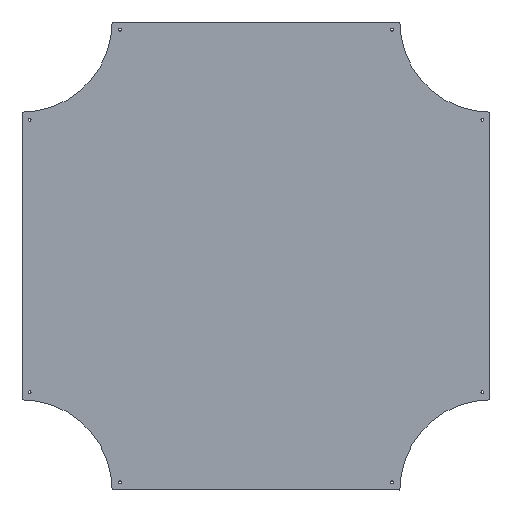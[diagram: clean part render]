
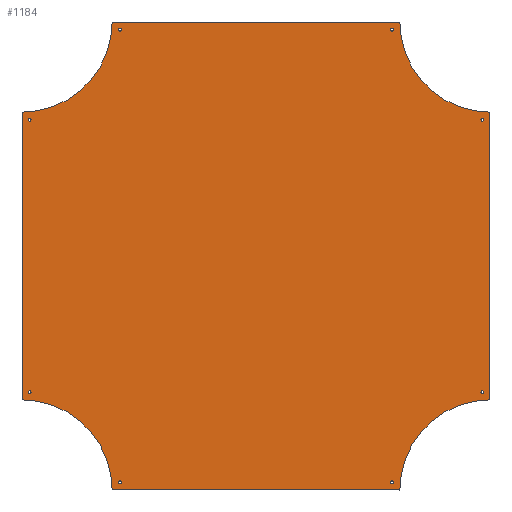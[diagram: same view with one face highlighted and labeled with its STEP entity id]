
A CAD part, top view. The second image highlights one B-rep face of the part: STEP entity #1184.
In plain terms, the highlighted planar face has unit normal (0, 0, 1).
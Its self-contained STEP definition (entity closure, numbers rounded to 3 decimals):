
#86=FACE_BOUND('',#177,.T.);
#87=FACE_BOUND('',#178,.T.);
#88=FACE_BOUND('',#179,.T.);
#89=FACE_BOUND('',#180,.T.);
#90=FACE_BOUND('',#181,.T.);
#91=FACE_BOUND('',#182,.T.);
#92=FACE_BOUND('',#183,.T.);
#93=FACE_BOUND('',#184,.T.);
#102=FACE_OUTER_BOUND('',#176,.T.);
#176=EDGE_LOOP('',(#810,#811,#812,#813,#814,#815,#816,#817));
#177=EDGE_LOOP('',(#818,#819));
#178=EDGE_LOOP('',(#820,#821));
#179=EDGE_LOOP('',(#822,#823));
#180=EDGE_LOOP('',(#824,#825));
#181=EDGE_LOOP('',(#826,#827));
#182=EDGE_LOOP('',(#828,#829));
#183=EDGE_LOOP('',(#830,#831));
#184=EDGE_LOOP('',(#832,#833));
#266=CIRCLE('',#1270,298.5);
#267=CIRCLE('',#1271,298.5);
#268=CIRCLE('',#1272,298.5);
#269=CIRCLE('',#1273,298.5);
#270=CIRCLE('',#1274,5.);
#271=CIRCLE('',#1275,5.);
#272=CIRCLE('',#1276,5.);
#273=CIRCLE('',#1277,5.);
#274=CIRCLE('',#1278,5.);
#275=CIRCLE('',#1279,5.);
#276=CIRCLE('',#1280,5.);
#277=CIRCLE('',#1281,5.);
#278=CIRCLE('',#1282,5.);
#279=CIRCLE('',#1283,5.);
#280=CIRCLE('',#1284,5.);
#281=CIRCLE('',#1285,5.);
#282=CIRCLE('',#1286,5.);
#283=CIRCLE('',#1287,5.);
#284=CIRCLE('',#1288,5.);
#285=CIRCLE('',#1289,5.);
#338=LINE('',#1839,#434);
#339=LINE('',#1843,#435);
#340=LINE('',#1847,#436);
#341=LINE('',#1851,#437);
#434=VECTOR('',#1430,304.8);
#435=VECTOR('',#1433,304.8);
#436=VECTOR('',#1436,304.8);
#437=VECTOR('',#1439,304.8);
#530=VERTEX_POINT('',#1837);
#531=VERTEX_POINT('',#1838);
#532=VERTEX_POINT('',#1840);
#533=VERTEX_POINT('',#1842);
#534=VERTEX_POINT('',#1844);
#535=VERTEX_POINT('',#1846);
#536=VERTEX_POINT('',#1848);
#537=VERTEX_POINT('',#1850);
#538=VERTEX_POINT('',#1853);
#539=VERTEX_POINT('',#1854);
#540=VERTEX_POINT('',#1857);
#541=VERTEX_POINT('',#1858);
#542=VERTEX_POINT('',#1861);
#543=VERTEX_POINT('',#1862);
#544=VERTEX_POINT('',#1865);
#545=VERTEX_POINT('',#1866);
#546=VERTEX_POINT('',#1869);
#547=VERTEX_POINT('',#1870);
#548=VERTEX_POINT('',#1873);
#549=VERTEX_POINT('',#1874);
#550=VERTEX_POINT('',#1877);
#551=VERTEX_POINT('',#1878);
#552=VERTEX_POINT('',#1881);
#553=VERTEX_POINT('',#1882);
#642=EDGE_CURVE('',#530,#531,#338,.T.);
#643=EDGE_CURVE('',#531,#532,#266,.T.);
#644=EDGE_CURVE('',#532,#533,#339,.T.);
#645=EDGE_CURVE('',#533,#534,#267,.T.);
#646=EDGE_CURVE('',#534,#535,#340,.T.);
#647=EDGE_CURVE('',#535,#536,#268,.T.);
#648=EDGE_CURVE('',#536,#537,#341,.T.);
#649=EDGE_CURVE('',#537,#530,#269,.T.);
#650=EDGE_CURVE('',#538,#539,#270,.T.);
#651=EDGE_CURVE('',#539,#538,#271,.T.);
#652=EDGE_CURVE('',#540,#541,#272,.T.);
#653=EDGE_CURVE('',#541,#540,#273,.T.);
#654=EDGE_CURVE('',#542,#543,#274,.T.);
#655=EDGE_CURVE('',#543,#542,#275,.T.);
#656=EDGE_CURVE('',#544,#545,#276,.T.);
#657=EDGE_CURVE('',#545,#544,#277,.T.);
#658=EDGE_CURVE('',#546,#547,#278,.T.);
#659=EDGE_CURVE('',#547,#546,#279,.T.);
#660=EDGE_CURVE('',#548,#549,#280,.T.);
#661=EDGE_CURVE('',#549,#548,#281,.T.);
#662=EDGE_CURVE('',#550,#551,#282,.T.);
#663=EDGE_CURVE('',#551,#550,#283,.T.);
#664=EDGE_CURVE('',#552,#553,#284,.T.);
#665=EDGE_CURVE('',#553,#552,#285,.T.);
#810=ORIENTED_EDGE('',*,*,#642,.T.);
#811=ORIENTED_EDGE('',*,*,#643,.T.);
#812=ORIENTED_EDGE('',*,*,#644,.T.);
#813=ORIENTED_EDGE('',*,*,#645,.T.);
#814=ORIENTED_EDGE('',*,*,#646,.T.);
#815=ORIENTED_EDGE('',*,*,#647,.T.);
#816=ORIENTED_EDGE('',*,*,#648,.T.);
#817=ORIENTED_EDGE('',*,*,#649,.T.);
#818=ORIENTED_EDGE('',*,*,#650,.T.);
#819=ORIENTED_EDGE('',*,*,#651,.T.);
#820=ORIENTED_EDGE('',*,*,#652,.T.);
#821=ORIENTED_EDGE('',*,*,#653,.T.);
#822=ORIENTED_EDGE('',*,*,#654,.T.);
#823=ORIENTED_EDGE('',*,*,#655,.T.);
#824=ORIENTED_EDGE('',*,*,#656,.T.);
#825=ORIENTED_EDGE('',*,*,#657,.T.);
#826=ORIENTED_EDGE('',*,*,#658,.T.);
#827=ORIENTED_EDGE('',*,*,#659,.T.);
#828=ORIENTED_EDGE('',*,*,#660,.T.);
#829=ORIENTED_EDGE('',*,*,#661,.T.);
#830=ORIENTED_EDGE('',*,*,#662,.T.);
#831=ORIENTED_EDGE('',*,*,#663,.T.);
#832=ORIENTED_EDGE('',*,*,#664,.T.);
#833=ORIENTED_EDGE('',*,*,#665,.T.);
#1146=PLANE('',#1269);
#1184=ADVANCED_FACE('',(#102,#86,#87,#88,#89,#90,#91,#92,#93),#1146,.T.);
#1269=AXIS2_PLACEMENT_3D('',#1836,#1428,#1429);
#1270=AXIS2_PLACEMENT_3D('',#1841,#1431,#1432);
#1271=AXIS2_PLACEMENT_3D('',#1845,#1434,#1435);
#1272=AXIS2_PLACEMENT_3D('',#1849,#1437,#1438);
#1273=AXIS2_PLACEMENT_3D('',#1852,#1440,#1441);
#1274=AXIS2_PLACEMENT_3D('',#1855,#1442,#1443);
#1275=AXIS2_PLACEMENT_3D('',#1856,#1444,#1445);
#1276=AXIS2_PLACEMENT_3D('',#1859,#1446,#1447);
#1277=AXIS2_PLACEMENT_3D('',#1860,#1448,#1449);
#1278=AXIS2_PLACEMENT_3D('',#1863,#1450,#1451);
#1279=AXIS2_PLACEMENT_3D('',#1864,#1452,#1453);
#1280=AXIS2_PLACEMENT_3D('',#1867,#1454,#1455);
#1281=AXIS2_PLACEMENT_3D('',#1868,#1456,#1457);
#1282=AXIS2_PLACEMENT_3D('',#1871,#1458,#1459);
#1283=AXIS2_PLACEMENT_3D('',#1872,#1460,#1461);
#1284=AXIS2_PLACEMENT_3D('',#1875,#1462,#1463);
#1285=AXIS2_PLACEMENT_3D('',#1876,#1464,#1465);
#1286=AXIS2_PLACEMENT_3D('',#1879,#1466,#1467);
#1287=AXIS2_PLACEMENT_3D('',#1880,#1468,#1469);
#1288=AXIS2_PLACEMENT_3D('',#1883,#1470,#1471);
#1289=AXIS2_PLACEMENT_3D('',#1884,#1472,#1473);
#1428=DIRECTION('center_axis',(0.,0.,1.));
#1429=DIRECTION('ref_axis',(0.,-1.,0.));
#1430=DIRECTION('',(0.,1.,0.));
#1431=DIRECTION('center_axis',(0.,0.,-1.));
#1432=DIRECTION('ref_axis',(1.,0.,0.));
#1433=DIRECTION('',(-1.,0.,0.));
#1434=DIRECTION('center_axis',(0.,0.,-1.));
#1435=DIRECTION('ref_axis',(1.,0.,0.));
#1436=DIRECTION('',(0.,-1.,0.));
#1437=DIRECTION('center_axis',(0.,0.,-1.));
#1438=DIRECTION('ref_axis',(1.,0.,0.));
#1439=DIRECTION('',(1.,0.,0.));
#1440=DIRECTION('center_axis',(0.,0.,-1.));
#1441=DIRECTION('ref_axis',(1.,0.,0.));
#1442=DIRECTION('center_axis',(0.,0.,-1.));
#1443=DIRECTION('ref_axis',(1.,0.,0.));
#1444=DIRECTION('center_axis',(0.,0.,-1.));
#1445=DIRECTION('ref_axis',(1.,0.,0.));
#1446=DIRECTION('center_axis',(0.,0.,-1.));
#1447=DIRECTION('ref_axis',(1.,0.,0.));
#1448=DIRECTION('center_axis',(0.,0.,-1.));
#1449=DIRECTION('ref_axis',(1.,0.,0.));
#1450=DIRECTION('center_axis',(0.,0.,-1.));
#1451=DIRECTION('ref_axis',(1.,0.,0.));
#1452=DIRECTION('center_axis',(0.,0.,-1.));
#1453=DIRECTION('ref_axis',(1.,0.,0.));
#1454=DIRECTION('center_axis',(0.,0.,-1.));
#1455=DIRECTION('ref_axis',(1.,0.,0.));
#1456=DIRECTION('center_axis',(0.,0.,-1.));
#1457=DIRECTION('ref_axis',(1.,0.,0.));
#1458=DIRECTION('center_axis',(0.,0.,-1.));
#1459=DIRECTION('ref_axis',(1.,0.,0.));
#1460=DIRECTION('center_axis',(0.,0.,-1.));
#1461=DIRECTION('ref_axis',(1.,0.,0.));
#1462=DIRECTION('center_axis',(0.,0.,-1.));
#1463=DIRECTION('ref_axis',(1.,0.,0.));
#1464=DIRECTION('center_axis',(0.,0.,-1.));
#1465=DIRECTION('ref_axis',(1.,0.,0.));
#1466=DIRECTION('center_axis',(0.,0.,-1.));
#1467=DIRECTION('ref_axis',(1.,0.,0.));
#1468=DIRECTION('center_axis',(0.,0.,-1.));
#1469=DIRECTION('ref_axis',(1.,0.,0.));
#1470=DIRECTION('center_axis',(0.,0.,-1.));
#1471=DIRECTION('ref_axis',(1.,0.,0.));
#1472=DIRECTION('center_axis',(0.,0.,-1.));
#1473=DIRECTION('ref_axis',(1.,0.,0.));
#1836=CARTESIAN_POINT('Origin',(-476.5,-775.,1.5));
#1837=CARTESIAN_POINT('',(775.,-476.5,1.5));
#1838=CARTESIAN_POINT('',(775.,476.5,1.5));
#1839=CARTESIAN_POINT('',(775.,-476.5,1.5));
#1840=CARTESIAN_POINT('',(476.5,775.,1.5));
#1841=CARTESIAN_POINT('Origin',(775.,775.,1.5));
#1842=CARTESIAN_POINT('',(-476.5,775.,1.5));
#1843=CARTESIAN_POINT('',(476.5,775.,1.5));
#1844=CARTESIAN_POINT('',(-775.,476.5,1.5));
#1845=CARTESIAN_POINT('Origin',(-775.,775.,1.5));
#1846=CARTESIAN_POINT('',(-775.,-476.5,1.5));
#1847=CARTESIAN_POINT('',(-775.,476.5,1.5));
#1848=CARTESIAN_POINT('',(-476.5,-775.,1.5));
#1849=CARTESIAN_POINT('Origin',(-775.,-775.,1.5));
#1850=CARTESIAN_POINT('',(476.5,-775.,1.5));
#1851=CARTESIAN_POINT('',(-476.5,-775.,1.5));
#1852=CARTESIAN_POINT('Origin',(775.,-775.,1.5));
#1853=CARTESIAN_POINT('',(-745.,451.5,1.5));
#1854=CARTESIAN_POINT('',(-755.,451.5,1.5));
#1855=CARTESIAN_POINT('Origin',(-750.,451.5,1.5));
#1856=CARTESIAN_POINT('Origin',(-750.,451.5,1.5));
#1857=CARTESIAN_POINT('',(-745.,-451.5,1.5));
#1858=CARTESIAN_POINT('',(-755.,-451.5,1.5));
#1859=CARTESIAN_POINT('Origin',(-750.,-451.5,1.5));
#1860=CARTESIAN_POINT('Origin',(-750.,-451.5,1.5));
#1861=CARTESIAN_POINT('',(455.,750.,1.5));
#1862=CARTESIAN_POINT('',(445.,750.,1.5));
#1863=CARTESIAN_POINT('Origin',(450.,750.,1.5));
#1864=CARTESIAN_POINT('Origin',(450.,750.,1.5));
#1865=CARTESIAN_POINT('',(-445.,750.,1.5));
#1866=CARTESIAN_POINT('',(-455.,750.,1.5));
#1867=CARTESIAN_POINT('Origin',(-450.,750.,1.5));
#1868=CARTESIAN_POINT('Origin',(-450.,750.,1.5));
#1869=CARTESIAN_POINT('',(755.,451.5,1.5));
#1870=CARTESIAN_POINT('',(745.,451.5,1.5));
#1871=CARTESIAN_POINT('Origin',(750.,451.5,1.5));
#1872=CARTESIAN_POINT('Origin',(750.,451.5,1.5));
#1873=CARTESIAN_POINT('',(755.,-451.5,1.5));
#1874=CARTESIAN_POINT('',(745.,-451.5,1.5));
#1875=CARTESIAN_POINT('Origin',(750.,-451.5,1.5));
#1876=CARTESIAN_POINT('Origin',(750.,-451.5,1.5));
#1877=CARTESIAN_POINT('',(-445.,-750.,1.5));
#1878=CARTESIAN_POINT('',(-455.,-750.,1.5));
#1879=CARTESIAN_POINT('Origin',(-450.,-750.,1.5));
#1880=CARTESIAN_POINT('Origin',(-450.,-750.,1.5));
#1881=CARTESIAN_POINT('',(455.,-750.,1.5));
#1882=CARTESIAN_POINT('',(445.,-750.,1.5));
#1883=CARTESIAN_POINT('Origin',(450.,-750.,1.5));
#1884=CARTESIAN_POINT('Origin',(450.,-750.,1.5));
